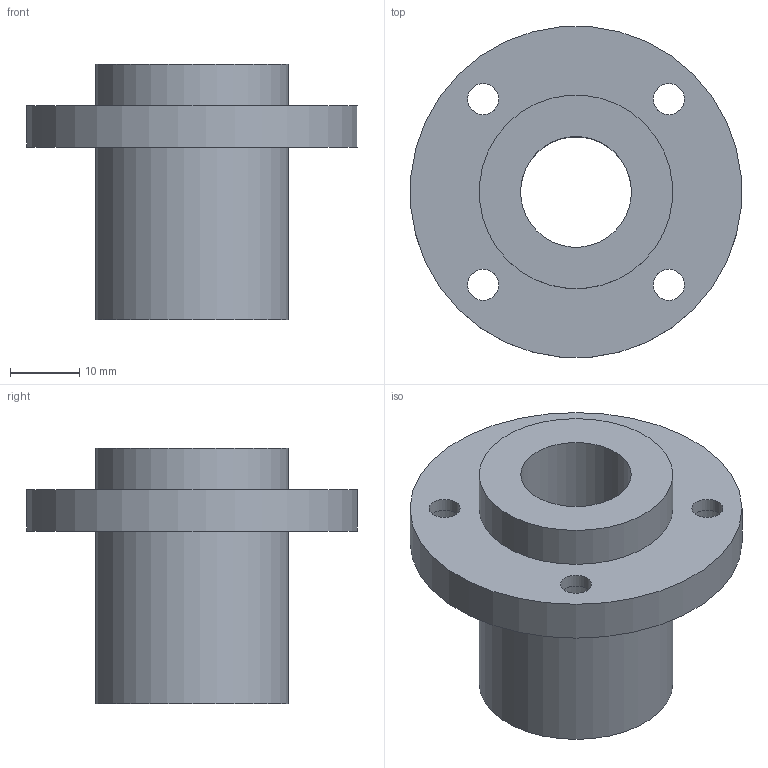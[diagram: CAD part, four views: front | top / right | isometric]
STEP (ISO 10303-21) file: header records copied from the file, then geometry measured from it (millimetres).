
FILE_DESCRIPTION(/* description */ (''),/* implementation_level */ '2;1');
FILE_NAME(/* name */ 'LMFP16UU',/* time_stamp */ '2019-07-03T11:33:02+02:00',/* author */ ('VĂ©gh MĂˇtĂ©'),/* organization */ ('Bearing Kft'),/* preprocessor_version */ 'ST-DEVELOPER v16.7',/* originating_system */ 'DEX',/* authorisation */ $);
FILE_SCHEMA (('AUTOMOTIVE_DESIGN {1 0 10303 214 3 1 1}'));
Length unit declared in the file: millimetre
Products named in the file (1): LMFP16UU
Bounding box: 47.82 x 47.82 x 37 mm (x, y, z)
Volume: 21658.2 mm3; surface area: 9094 mm2
Topology: 1 solids, 1 shells, 328 faces, 820 edges, 548 vertices
Faces by surface type: plane 252, bspline 61, cylinder 15
Full cylindrical faces by diameter (mm): 4.5 x4, 7.5 x4, 16 x1, 28 x2, 48 x1
Entity records: 12554 total; most frequent: CARTESIAN_POINT 5106, ORIENTED_EDGE 1604, DIRECTION 1246, EDGE_CURVE 802, LINE 650, VECTOR 650, VERTEX_POINT 544, EDGE_LOOP 406
